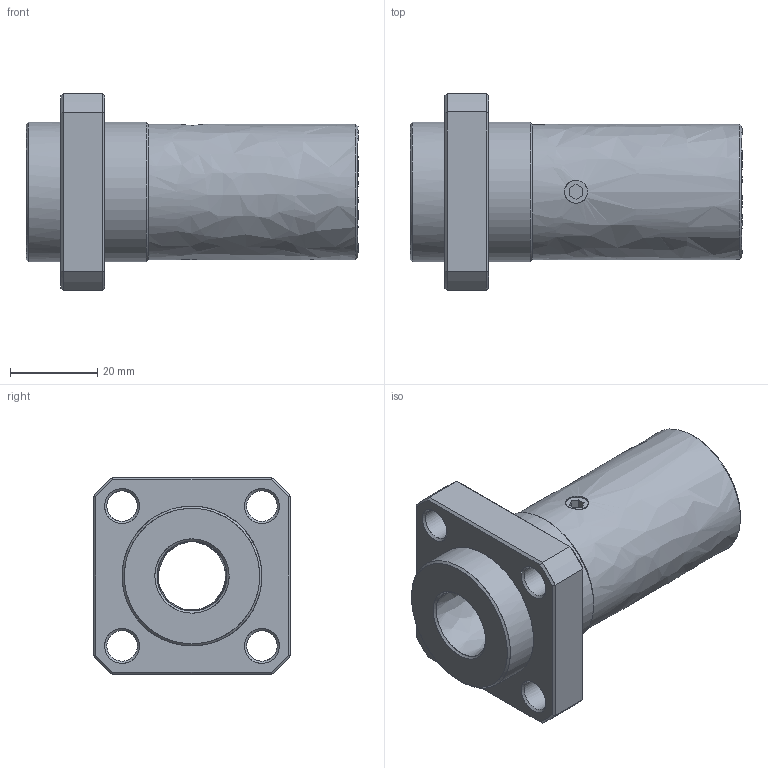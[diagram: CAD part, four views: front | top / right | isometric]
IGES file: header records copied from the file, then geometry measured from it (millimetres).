
Start section: Missler Software 3 rue Hermes, EUROPARC, 31520 Ramonville-Saint-Agne, France Tel   : +33 (0)5 61 00 03 00 Fax   : +33 (0)5 61 00 03 03 Email : sup.solid@topsolid.com
Global section: file name: \\192.168.1.1\share\s-4 技術開発\s-4-4_CAD\s-4-4-3_見直し済み\009 修正済み\LCF-B(済)\LCF-B_TOP\LCF-16BUU.igs; native system: TopSolid v611216 Missler Software; preprocessor: IGES preprocessor v100000; author: yu; organization: コダマコーポレーション株式会社, 10,7,13H22020; date: 220203.165628; units: millimetre
Bounding box: 76 x 45 x 45 mm (x, y, z)
Surface area: 16141.9 mm2 (no closed solid volume)
Topology: 0 solids, 0 shells, 62 faces, 664 edges, 653 vertices
Faces by surface type: bspline 62
